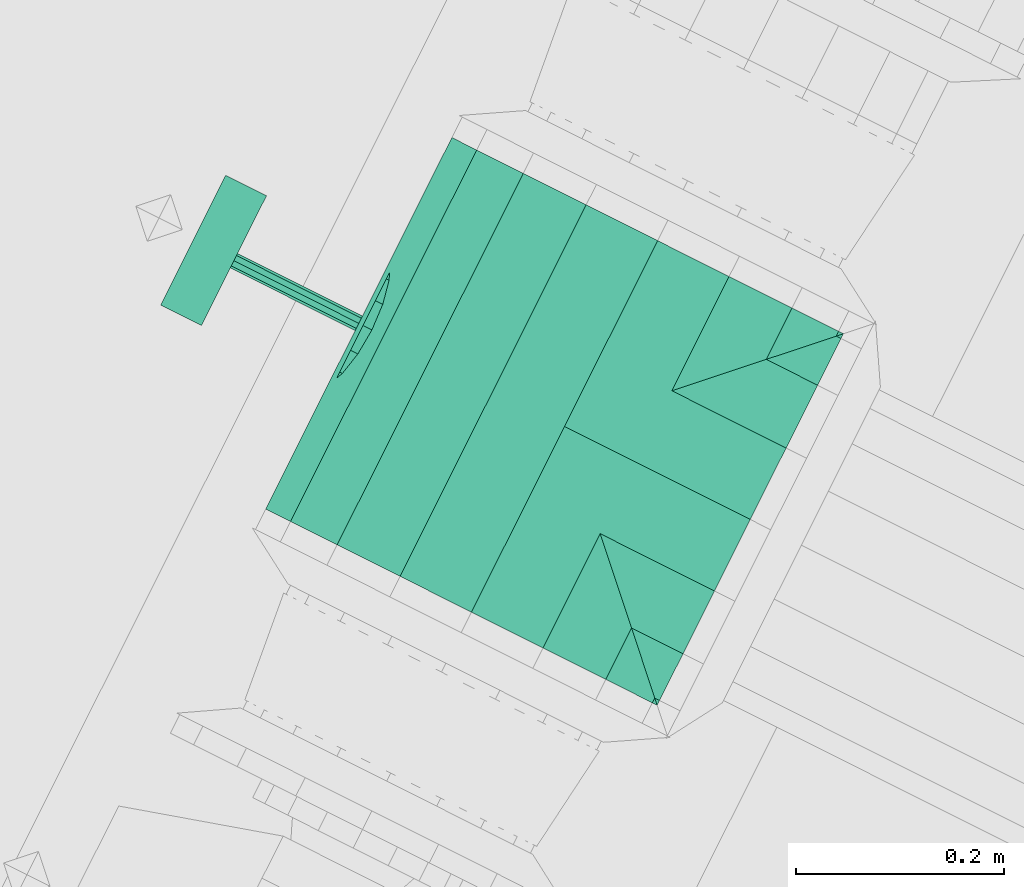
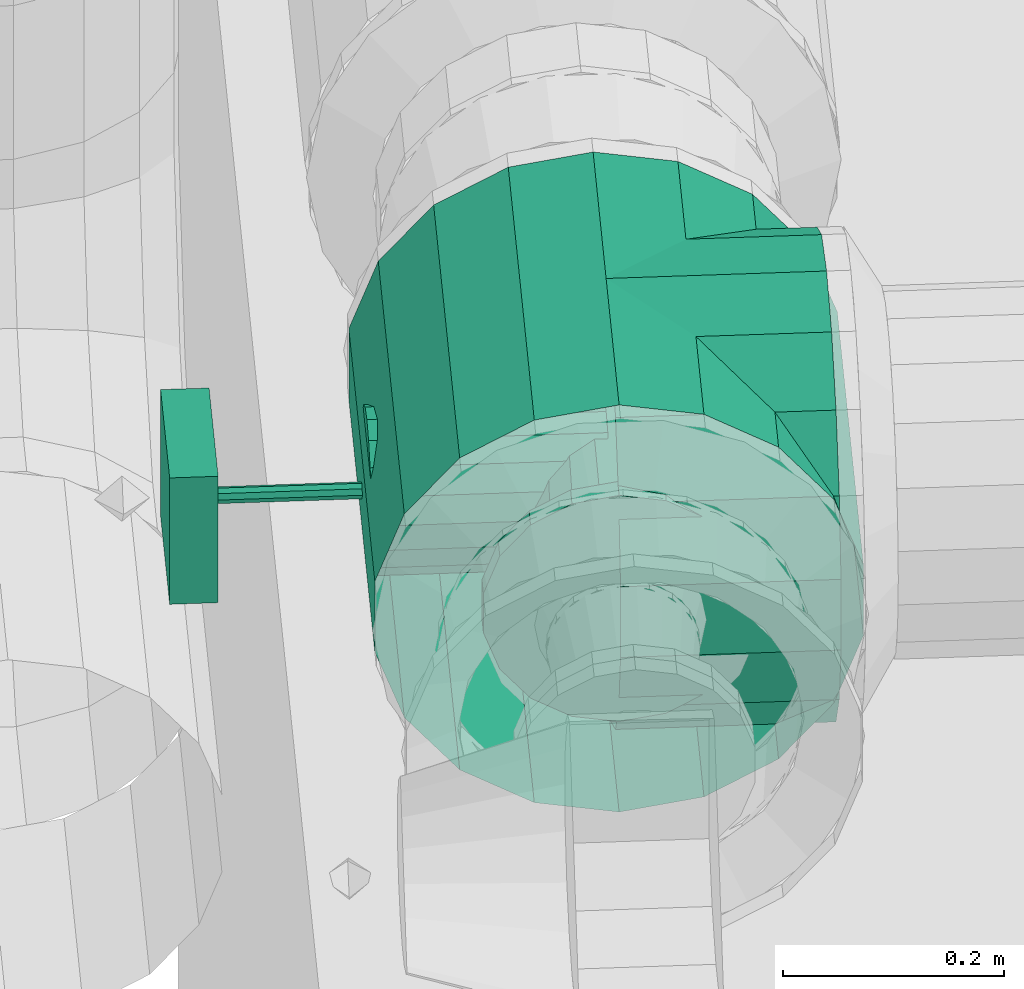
# One storey, part 109 of 206: 1 flow controller.
"""IFC2X3 building model written with IfcOpenShell, lengths in metres."""

from ifc_helpers import new_model, si_unit, derived_unit, direction, frame, origin, place, context, subcontext, project, spatial, face_set, surface_model, source, transform, mapped, material, type_object, type_shapes, element, save


model = new_model("IFC2X3")

# Units and contexts
model_context = context("Model", 3, precision=5.2338327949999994e-05, world=origin(), true_north=direction((0.0, 1.0)))
body_context = subcontext(model_context, "Body", "Model", "MODEL_VIEW")
ifc_project = project(units=[si_unit("LENGTHUNIT", "METRE"), si_unit("AREAUNIT", "SQUARE_METRE"), si_unit("VOLUMEUNIT", "CUBIC_METRE"), si_unit("MASSUNIT", "GRAM", prefix="KILO"), si_unit("PLANEANGLEUNIT", "RADIAN"), derived_unit("THERMALTRANSMITTANCEUNIT", [(si_unit("MASSUNIT", "GRAM", prefix="KILO"), 1), (si_unit("THERMODYNAMICTEMPERATUREUNIT", "KELVIN"), -1), (si_unit("TIMEUNIT", "SECOND"), -3)])], contexts=[model_context])

# Site, building, storey
site_placement = place(None, frame((0.0, 0.0, 0.0), z_axis=(0.0, 0.0, 1.0), x_axis=(0.8939966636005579, -0.4480736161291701, 0.0)))
site = spatial("IfcSite", under=ifc_project, at=site_placement, Name="Default", CompositionType="ELEMENT")
building_placement = place(site_placement, origin())
building = spatial("IfcBuilding", under=site, at=building_placement, CompositionType="ELEMENT")
storey_placement = place(building_placement, origin())
storey = spatial("IfcBuildingStorey", under=building, at=storey_placement, Name="Erdgeschoss", CompositionType="ELEMENT", Elevation=0.0)

# Flow controller
ifc_material = material(Name="IfcSurfaceStyle #1741")
distribution_element_type = type_object("IfcDistributionElementType", Name="Dreiwegeventil 318032:Dreiwegeventil 318032", material=ifc_material)
shared_shape = source(origin(), body_context, "Body", "SurfaceModel", [
    surface_model("IfcFaceBasedSurfaceModel", [(22.728853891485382, 6.5891110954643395, 2.42385), (22.728853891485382, 6.728811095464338, 2.42385), (22.728853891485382, 6.728811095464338, 2.2841500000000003), (22.728853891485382, 6.5891110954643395, 2.2841500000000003), (22.684853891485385, 6.728811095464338, 2.2841500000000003), (22.684853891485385, 6.5891110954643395, 2.2841500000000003), (22.684853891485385, 6.728811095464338, 2.42385), (22.684853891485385, 6.5891110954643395, 2.42385), (23.084853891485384, 6.45896109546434, 2.229), (23.042101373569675, 6.45896109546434, 2.236538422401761), (23.042101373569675, 6.480961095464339, 2.236538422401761), (23.084853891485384, 6.480961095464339, 2.229), (23.004505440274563, 6.45896109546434, 2.2582444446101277), (23.004505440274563, 6.480961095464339, 2.2582444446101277), (22.976600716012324, 6.45896109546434, 2.291500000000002), (22.976600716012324, 6.480961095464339, 2.291500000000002), (22.961752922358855, 6.45896109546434, 2.3322939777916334), (22.961752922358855, 6.480961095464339, 2.3322939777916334), (22.961752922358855, 6.45896109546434, 2.3757060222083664), (22.961752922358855, 6.480961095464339, 2.3757060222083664), (22.976600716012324, 6.45896109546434, 2.4165), (22.976600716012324, 6.480961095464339, 2.4165), (23.004505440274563, 6.45896109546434, 2.44975555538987), (23.004505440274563, 6.480961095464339, 2.44975555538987), (23.042101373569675, 6.45896109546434, 2.4714615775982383), (23.042101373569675, 6.480961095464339, 2.4714615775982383), (23.084853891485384, 6.45896109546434, 2.479), (23.084853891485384, 6.480961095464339, 2.479), (23.12760640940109, 6.45896109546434, 2.4714615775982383), (23.12760640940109, 6.480961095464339, 2.4714615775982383), (23.1652023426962, 6.45896109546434, 2.4497555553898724), (23.1652023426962, 6.480961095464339, 2.4497555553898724), (23.19310706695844, 6.45896109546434, 2.4165000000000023), (23.19310706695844, 6.480961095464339, 2.4165000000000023), (23.20795486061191, 6.45896109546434, 2.3757060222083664), (23.20795486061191, 6.480961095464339, 2.3757060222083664), (23.20795486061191, 6.45896109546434, 2.3322939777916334), (23.20795486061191, 6.480961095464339, 2.3322939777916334), (23.19310706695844, 6.45896109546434, 2.2915), (23.19310706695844, 6.480961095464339, 2.2915), (23.1652023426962, 6.45896109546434, 2.258244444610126), (23.1652023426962, 6.480961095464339, 2.258244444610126), (23.12760640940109, 6.45896109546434, 2.236538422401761), (23.12760640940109, 6.480961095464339, 2.236538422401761), (23.084853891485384, 6.458961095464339, 2.354), (23.084853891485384, 6.480961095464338, 2.354), (23.162853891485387, 6.480961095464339, 2.354), (23.158149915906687, 6.480961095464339, 2.327322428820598), (23.15049142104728, 6.65896109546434, 2.330109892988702), (23.154703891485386, 6.65896109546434, 2.3539999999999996), (23.14460535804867, 6.480961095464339, 2.3038625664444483), (23.13836209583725, 6.65896109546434, 2.3091012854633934), (23.123853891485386, 6.480961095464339, 2.2864500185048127), (23.119778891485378, 6.65896109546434, 2.2935081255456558), (23.098398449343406, 6.480961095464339, 2.2771849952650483), (23.096983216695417, 6.65896109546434, 2.285211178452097), (23.071309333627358, 6.480961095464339, 2.277184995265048), (23.072724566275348, 6.65896109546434, 2.2852111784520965), (23.04585389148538, 6.480961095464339, 2.286450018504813), (23.049928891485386, 6.65896109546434, 2.293508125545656), (23.025102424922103, 6.480961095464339, 2.30386256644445), (23.03134568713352, 6.65896109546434, 2.3091012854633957), (23.011557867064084, 6.480961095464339, 2.327322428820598), (23.019216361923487, 6.65896109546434, 2.330109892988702), (23.006853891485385, 6.480961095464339, 2.354), (23.01500389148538, 6.65896109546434, 2.3539999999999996), (23.011557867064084, 6.480961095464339, 2.380677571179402), (23.019216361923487, 6.65896109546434, 2.3778901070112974), (23.025102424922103, 6.480961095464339, 2.404137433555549), (23.031345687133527, 6.65896109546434, 2.398898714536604), (23.04585389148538, 6.480961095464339, 2.4215499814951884), (23.049928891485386, 6.65896109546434, 2.4144918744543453), (23.071309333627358, 6.480961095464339, 2.430815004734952), (23.072724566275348, 6.65896109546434, 2.4227888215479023), (23.098398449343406, 6.480961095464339, 2.4308150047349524), (23.096983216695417, 6.65896109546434, 2.4227888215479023), (23.123853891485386, 6.480961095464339, 2.421549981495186), (23.119778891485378, 6.65896109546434, 2.4144918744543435), (23.144605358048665, 6.480961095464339, 2.404137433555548), (23.13836209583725, 6.65896109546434, 2.3988987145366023), (23.15814991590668, 6.480961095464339, 2.380677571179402), (23.15049142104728, 6.65896109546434, 2.377890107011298), (23.158149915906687, 6.836961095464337, 2.327322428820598), (23.162853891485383, 6.836961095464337, 2.354), (23.14460535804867, 6.836961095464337, 2.3038625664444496), (23.123853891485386, 6.836961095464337, 2.286450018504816), (23.098398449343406, 6.836961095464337, 2.2771849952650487), (23.071309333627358, 6.836961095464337, 2.277184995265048), (23.04585389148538, 6.836961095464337, 2.2864500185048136), (23.025102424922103, 6.836961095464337, 2.3038625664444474), (23.011557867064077, 6.836961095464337, 2.3273224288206), (23.006853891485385, 6.836961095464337, 2.354), (23.011557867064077, 6.836961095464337, 2.3806775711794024), (23.0251024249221, 6.836961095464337, 2.40413743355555), (23.04585389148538, 6.836961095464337, 2.4215499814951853), (23.071309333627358, 6.836961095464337, 2.4308150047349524), (23.098398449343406, 6.836961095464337, 2.4308150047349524), (23.123853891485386, 6.836961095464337, 2.4215499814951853), (23.144605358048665, 6.836961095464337, 2.404137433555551), (23.158149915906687, 6.836961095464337, 2.380677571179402), (23.084853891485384, 6.836961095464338, 2.229), (23.042101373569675, 6.836961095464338, 2.236538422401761), (23.042101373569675, 6.8589610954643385, 2.236538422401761), (23.084853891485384, 6.8589610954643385, 2.229), (23.004505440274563, 6.836961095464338, 2.2582444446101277), (23.004505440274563, 6.8589610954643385, 2.2582444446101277), (22.976600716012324, 6.836961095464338, 2.291500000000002), (22.976600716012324, 6.8589610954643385, 2.291500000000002), (22.961752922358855, 6.836961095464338, 2.3322939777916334), (22.961752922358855, 6.8589610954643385, 2.3322939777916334), (22.961752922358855, 6.836961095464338, 2.3757060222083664), (22.961752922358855, 6.8589610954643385, 2.3757060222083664), (22.976600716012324, 6.836961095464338, 2.4165), (22.976600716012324, 6.8589610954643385, 2.4165), (23.004505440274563, 6.836961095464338, 2.44975555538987), (23.004505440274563, 6.8589610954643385, 2.44975555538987), (23.042101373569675, 6.836961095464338, 2.4714615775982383), (23.042101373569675, 6.8589610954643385, 2.4714615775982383), (23.084853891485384, 6.836961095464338, 2.479), (23.084853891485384, 6.8589610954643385, 2.479), (23.12760640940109, 6.836961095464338, 2.4714615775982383), (23.12760640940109, 6.8589610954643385, 2.4714615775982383), (23.1652023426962, 6.836961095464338, 2.4497555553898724), (23.1652023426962, 6.8589610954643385, 2.4497555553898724), (23.19310706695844, 6.836961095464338, 2.4165000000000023), (23.19310706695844, 6.8589610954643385, 2.4165000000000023), (23.20795486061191, 6.836961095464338, 2.3757060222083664), (23.20795486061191, 6.8589610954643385, 2.3757060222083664), (23.20795486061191, 6.836961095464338, 2.3322939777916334), (23.20795486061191, 6.8589610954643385, 2.3322939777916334), (23.19310706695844, 6.836961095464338, 2.2915), (23.19310706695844, 6.8589610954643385, 2.2915), (23.1652023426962, 6.836961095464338, 2.258244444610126), (23.1652023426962, 6.8589610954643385, 2.258244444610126), (23.12760640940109, 6.836961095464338, 2.236538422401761), (23.12760640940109, 6.8589610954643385, 2.236538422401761), (23.084853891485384, 6.836961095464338, 2.354), (23.084853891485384, 6.858961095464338, 2.354), (23.084853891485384, 6.658961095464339, 2.276), (23.084853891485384, 6.6322835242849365, 2.2807039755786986), (22.867853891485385, 6.6322835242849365, 2.2807039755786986), (22.867853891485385, 6.658961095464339, 2.276), (23.084853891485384, 6.608823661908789, 2.2942485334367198), (22.867853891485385, 6.608823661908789, 2.2942485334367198), (23.084853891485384, 6.591411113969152, 2.315), (22.867853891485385, 6.591411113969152, 2.315), (23.084853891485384, 6.582146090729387, 2.3404554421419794), (22.867853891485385, 6.582146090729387, 2.3404554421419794), (23.084853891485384, 6.582146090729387, 2.3675445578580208), (22.867853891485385, 6.582146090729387, 2.3675445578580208), (23.084853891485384, 6.591411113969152, 2.3930000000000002), (22.867853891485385, 6.591411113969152, 2.3930000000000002), (23.084853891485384, 6.608823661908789, 2.4137514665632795), (22.867853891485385, 6.608823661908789, 2.4137514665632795), (23.084853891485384, 6.6322835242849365, 2.427296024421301), (22.867853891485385, 6.6322835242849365, 2.427296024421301), (23.084853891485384, 6.658961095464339, 2.4319999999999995), (22.867853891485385, 6.658961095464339, 2.4319999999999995), (23.084853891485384, 6.685638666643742, 2.427296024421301), (22.867853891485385, 6.685638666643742, 2.427296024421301), (23.084853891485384, 6.709098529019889, 2.41375146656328), (22.867853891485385, 6.709098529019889, 2.41375146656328), (23.084853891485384, 6.726511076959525, 2.3930000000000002), (22.867853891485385, 6.726511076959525, 2.3930000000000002), (23.084853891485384, 6.73577610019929, 2.3675445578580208), (22.867853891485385, 6.73577610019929, 2.3675445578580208), (23.084853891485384, 6.73577610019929, 2.3404554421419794), (22.867853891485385, 6.73577610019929, 2.3404554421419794), (23.084853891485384, 6.726511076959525, 2.315), (22.867853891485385, 6.726511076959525, 2.315), (23.084853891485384, 6.709098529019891, 2.2942485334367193), (22.867853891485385, 6.709098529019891, 2.2942485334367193), (23.084853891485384, 6.685638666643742, 2.280703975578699), (22.867853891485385, 6.685638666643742, 2.280703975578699), (23.084853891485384, 6.658961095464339, 2.354), (22.867853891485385, 6.658961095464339, 2.354), (22.867853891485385, 6.658961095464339, 2.3462), (22.867853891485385, 6.653445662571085, 2.348484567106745), (22.728853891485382, 6.653445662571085, 2.348484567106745), (22.728853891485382, 6.658961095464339, 2.3462), (22.867853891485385, 6.65116109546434, 2.3539999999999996), (22.728853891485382, 6.65116109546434, 2.3539999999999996), (22.867853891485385, 6.653445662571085, 2.359515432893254), (22.728853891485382, 6.653445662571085, 2.359515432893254), (22.867853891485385, 6.658961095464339, 2.3617999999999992), (22.728853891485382, 6.658961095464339, 2.3617999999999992), (22.867853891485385, 6.664476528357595, 2.359515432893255), (22.728853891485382, 6.664476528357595, 2.359515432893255), (22.867853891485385, 6.666761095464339, 2.3540000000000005), (22.728853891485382, 6.666761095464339, 2.3540000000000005), (22.867853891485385, 6.664476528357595, 2.3484845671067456), (22.728853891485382, 6.664476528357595, 2.3484845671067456), (22.728853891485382, 6.658961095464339, 2.354), (23.084853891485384, 6.5891110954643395, 2.3539999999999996), (23.084853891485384, 6.593323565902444, 2.330109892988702), (23.26285389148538, 6.585665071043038, 2.3273224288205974), (23.26285389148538, 6.580961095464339, 2.354), (23.084853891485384, 6.605452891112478, 2.3091012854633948), (23.26285389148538, 6.599209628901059, 2.303862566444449), (23.084853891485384, 6.624036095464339, 2.293508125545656), (23.26285389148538, 6.619961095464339, 2.286450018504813), (23.084853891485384, 6.646831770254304, 2.2852111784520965), (23.26285389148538, 6.6454165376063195, 2.277184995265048), (23.084853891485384, 6.671090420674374, 2.285211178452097), (23.26285389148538, 6.672505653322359, 2.277184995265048), (23.084853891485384, 6.6938860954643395, 2.293508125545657), (23.26285389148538, 6.69796109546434, 2.2864500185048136), (23.084853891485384, 6.7124692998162, 2.3091012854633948), (23.26285389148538, 6.718712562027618, 2.3038625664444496), (23.084853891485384, 6.724598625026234, 2.3301098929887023), (23.26285389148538, 6.732257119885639, 2.327322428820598), (23.084853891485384, 6.728811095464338, 2.354), (23.26285389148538, 6.7369610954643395, 2.354), (23.084853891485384, 6.724598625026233, 2.377890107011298), (23.26285389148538, 6.732257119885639, 2.380677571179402), (23.084853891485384, 6.712469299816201, 2.398898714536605), (23.26285389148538, 6.718712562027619, 2.40413743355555), (23.084853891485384, 6.6938860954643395, 2.414491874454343), (23.26285389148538, 6.69796109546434, 2.4215499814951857), (23.084853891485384, 6.671090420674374, 2.4227888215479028), (23.26285389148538, 6.672505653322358, 2.4308150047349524), (23.084853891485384, 6.646831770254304, 2.4227888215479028), (23.26285389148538, 6.6454165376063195, 2.4308150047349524), (23.084853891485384, 6.624036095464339, 2.4144918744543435), (23.26285389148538, 6.619961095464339, 2.421549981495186), (23.084853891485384, 6.6054528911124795, 2.3988987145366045), (23.26285389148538, 6.59920962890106, 2.40413743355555), (23.084853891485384, 6.593323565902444, 2.3778901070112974), (23.26285389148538, 6.585665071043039, 2.380677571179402), (23.26285389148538, 6.658961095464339, 2.229), (23.26285389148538, 6.701713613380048, 2.236538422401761), (23.284853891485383, 6.701713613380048, 2.236538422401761), (23.284853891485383, 6.658961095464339, 2.229), (23.26285389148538, 6.739309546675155, 2.2582444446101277), (23.284853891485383, 6.739309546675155, 2.2582444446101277), (23.26285389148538, 6.7672142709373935, 2.291499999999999), (23.284853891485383, 6.7672142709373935, 2.291499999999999), (23.26285389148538, 6.782062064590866, 2.332293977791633), (23.284853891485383, 6.782062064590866, 2.332293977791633), (23.26285389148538, 6.782062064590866, 2.3757060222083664), (23.284853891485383, 6.782062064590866, 2.3757060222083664), (23.26285389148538, 6.7672142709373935, 2.4165000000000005), (23.284853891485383, 6.7672142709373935, 2.4165000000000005), (23.26285389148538, 6.739309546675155, 2.4497555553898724), (23.284853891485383, 6.739309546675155, 2.4497555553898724), (23.26285389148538, 6.701713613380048, 2.4714615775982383), (23.284853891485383, 6.701713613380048, 2.4714615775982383), (23.26285389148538, 6.658961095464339, 2.479), (23.284853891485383, 6.658961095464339, 2.479), (23.26285389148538, 6.616208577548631, 2.4714615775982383), (23.284853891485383, 6.616208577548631, 2.4714615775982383), (23.26285389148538, 6.578612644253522, 2.4497555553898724), (23.284853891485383, 6.578612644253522, 2.4497555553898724), (23.26285389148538, 6.550707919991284, 2.4165000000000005), (23.284853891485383, 6.550707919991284, 2.4165000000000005), (23.26285389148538, 6.535860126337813, 2.3757060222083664), (23.284853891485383, 6.535860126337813, 2.3757060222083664), (23.26285389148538, 6.535860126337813, 2.3322939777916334), (23.284853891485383, 6.535860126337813, 2.3322939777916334), (23.26285389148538, 6.550707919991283, 2.2914999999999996), (23.284853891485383, 6.550707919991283, 2.2914999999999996), (23.26285389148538, 6.578612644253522, 2.2582444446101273), (23.284853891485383, 6.578612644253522, 2.2582444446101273), (23.26285389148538, 6.616208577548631, 2.2365384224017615), (23.284853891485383, 6.616208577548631, 2.2365384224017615), (23.26285389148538, 6.658961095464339, 2.354), (23.284853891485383, 6.658961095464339, 2.354), (23.08485389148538, 6.45896109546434, 2.129), (23.0078993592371, 6.45896109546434, 2.1425691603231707), (23.0078993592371, 6.8589610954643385, 2.1425691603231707), (23.08485389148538, 6.8589610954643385, 2.129), (22.940226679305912, 6.45896109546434, 2.181640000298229), (22.940226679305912, 6.8589610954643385, 2.181640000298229), (22.88999817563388, 6.45896109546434, 2.2415), (22.88999817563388, 6.8589610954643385, 2.2415), (22.863272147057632, 6.45896109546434, 2.31492916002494), (22.863272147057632, 6.8589610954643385, 2.31492916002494), (22.863272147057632, 6.45896109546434, 2.393070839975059), (22.863272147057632, 6.8589610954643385, 2.393070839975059), (22.88999817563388, 6.45896109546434, 2.4664999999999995), (22.88999817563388, 6.8589610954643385, 2.4664999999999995), (22.940226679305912, 6.45896109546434, 2.52635999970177), (22.940226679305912, 6.8589610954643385, 2.52635999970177), (23.0078993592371, 6.45896109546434, 2.5654308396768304), (23.0078993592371, 6.8589610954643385, 2.5654308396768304), (23.08485389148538, 6.45896109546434, 2.579), (23.08485389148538, 6.8589610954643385, 2.579), (23.161808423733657, 6.45896109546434, 2.565430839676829), (23.161808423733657, 6.8589610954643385, 2.565430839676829), (23.229481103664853, 6.45896109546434, 2.52635999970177), (23.229481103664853, 6.8589610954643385, 2.52635999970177), (23.27970960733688, 6.45896109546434, 2.4665000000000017), (23.27970960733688, 6.8589610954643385, 2.4665000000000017), (23.30643563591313, 6.45896109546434, 2.393070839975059), (23.30643563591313, 6.8589610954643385, 2.393070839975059), (23.30643563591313, 6.45896109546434, 2.31492916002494), (23.30643563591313, 6.8589610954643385, 2.31492916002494), (23.27970960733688, 6.45896109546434, 2.2415), (23.27970960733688, 6.8589610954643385, 2.2415), (23.229481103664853, 6.45896109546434, 2.181640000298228), (23.229481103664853, 6.8589610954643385, 2.181640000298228), (23.161808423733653, 6.45896109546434, 2.1425691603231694), (23.161808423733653, 6.8589610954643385, 2.1425691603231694), (23.08485389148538, 6.658961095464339, 2.129), (23.08485389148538, 6.735915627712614, 2.1425691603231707), (23.284853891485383, 6.735915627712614, 2.1425691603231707), (23.284853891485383, 6.658961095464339, 2.129), (23.08485389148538, 6.80358830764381, 2.1816400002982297), (23.284853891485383, 6.80358830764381, 2.1816400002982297), (23.08485389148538, 6.853816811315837, 2.2415), (23.284853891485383, 6.853816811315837, 2.2415), (23.08485389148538, 6.880542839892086, 2.31492916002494), (23.284853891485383, 6.880542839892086, 2.31492916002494), (23.08485389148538, 6.880542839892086, 2.393070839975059), (23.284853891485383, 6.880542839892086, 2.393070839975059), (23.08485389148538, 6.853816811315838, 2.4664999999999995), (23.284853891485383, 6.853816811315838, 2.4664999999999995), (23.08485389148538, 6.803588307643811, 2.52635999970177), (23.284853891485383, 6.803588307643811, 2.52635999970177), (23.08485389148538, 6.735915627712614, 2.565430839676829), (23.284853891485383, 6.735915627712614, 2.565430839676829), (23.08485389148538, 6.658961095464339, 2.579), (23.284853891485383, 6.658961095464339, 2.579), (23.08485389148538, 6.582006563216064, 2.565430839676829), (23.284853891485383, 6.582006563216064, 2.565430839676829), (23.08485389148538, 6.514333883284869, 2.52635999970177), (23.284853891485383, 6.514333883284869, 2.52635999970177), (23.08485389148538, 6.464105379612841, 2.4664999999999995), (23.284853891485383, 6.464105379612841, 2.4664999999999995), (23.08485389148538, 6.437379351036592, 2.3930708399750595), (23.284853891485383, 6.437379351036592, 2.3930708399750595), (23.08485389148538, 6.437379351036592, 2.31492916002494), (23.284853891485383, 6.437379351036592, 2.31492916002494), (23.08485389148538, 6.464105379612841, 2.241499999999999), (23.284853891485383, 6.464105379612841, 2.241499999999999), (23.08485389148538, 6.514333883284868, 2.1816400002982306), (23.284853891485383, 6.514333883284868, 2.1816400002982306), (23.08485389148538, 6.582006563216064, 2.14256916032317), (23.284853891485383, 6.582006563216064, 2.14256916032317)], [face_set([[[0, 1, 2, 3]], [[3, 2, 4, 5]], [[5, 4, 6, 7]], [[7, 6, 1, 0]], [[0, 3, 5, 7]], [[6, 4, 2, 1]], [[8, 9, 10, 11]], [[9, 12, 13, 10]], [[12, 14, 15, 13]], [[14, 16, 17, 15]], [[16, 18, 19, 17]], [[18, 20, 21, 19]], [[20, 22, 23, 21]], [[22, 24, 25, 23]], [[24, 26, 27, 25]], [[26, 28, 29, 27]], [[28, 30, 31, 29]], [[30, 32, 33, 31]], [[32, 34, 35, 33]], [[34, 36, 37, 35]], [[36, 38, 39, 37]], [[38, 40, 41, 39]], [[40, 42, 43, 41]], [[42, 8, 11, 43]], [[44, 9, 8]], [[44, 12, 9]], [[44, 14, 12]], [[44, 16, 14]], [[44, 18, 16]], [[44, 20, 18]], [[44, 22, 20]], [[44, 24, 22]], [[44, 26, 24]], [[44, 28, 26]], [[44, 30, 28]], [[44, 32, 30]], [[44, 34, 32]], [[44, 36, 34]], [[44, 38, 36]], [[44, 40, 38]], [[44, 42, 40]], [[44, 8, 42]], [[45, 43, 11]], [[45, 41, 43]], [[45, 39, 41]], [[45, 37, 39]], [[45, 35, 37]], [[45, 33, 35]], [[45, 31, 33]], [[45, 29, 31]], [[45, 27, 29]], [[45, 25, 27]], [[45, 23, 25]], [[45, 21, 23]], [[45, 19, 21]], [[45, 17, 19]], [[45, 15, 17]], [[45, 13, 15]], [[45, 10, 13]], [[45, 11, 10]], [[46, 47, 48, 49]], [[47, 50, 51, 48]], [[50, 52, 53, 51]], [[52, 54, 55, 53]], [[54, 56, 57, 55]], [[56, 58, 59, 57]], [[58, 60, 61, 59]], [[60, 62, 63, 61]], [[62, 64, 65, 63]], [[64, 66, 67, 65]], [[66, 68, 69, 67]], [[68, 70, 71, 69]], [[70, 72, 73, 71]], [[72, 74, 75, 73]], [[74, 76, 77, 75]], [[76, 78, 79, 77]], [[78, 80, 81, 79]], [[80, 46, 49, 81]], [[49, 48, 82, 83]], [[48, 51, 84, 82]], [[51, 53, 85, 84]], [[53, 55, 86, 85]], [[55, 57, 87, 86]], [[57, 59, 88, 87]], [[59, 61, 89, 88]], [[61, 63, 90, 89]], [[63, 65, 91, 90]], [[65, 67, 92, 91]], [[67, 69, 93, 92]], [[69, 71, 94, 93]], [[71, 73, 95, 94]], [[73, 75, 96, 95]], [[75, 77, 97, 96]], [[77, 79, 98, 97]], [[79, 81, 99, 98]], [[81, 49, 83, 99]], [[100, 101, 102, 103]], [[101, 104, 105, 102]], [[104, 106, 107, 105]], [[106, 108, 109, 107]], [[108, 110, 111, 109]], [[110, 112, 113, 111]], [[112, 114, 115, 113]], [[114, 116, 117, 115]], [[116, 118, 119, 117]], [[118, 120, 121, 119]], [[120, 122, 123, 121]], [[122, 124, 125, 123]], [[124, 126, 127, 125]], [[126, 128, 129, 127]], [[128, 130, 131, 129]], [[130, 132, 133, 131]], [[132, 134, 135, 133]], [[134, 100, 103, 135]], [[136, 101, 100]], [[136, 104, 101]], [[136, 106, 104]], [[136, 108, 106]], [[136, 110, 108]], [[136, 112, 110]], [[136, 114, 112]], [[136, 116, 114]], [[136, 118, 116]], [[136, 120, 118]], [[136, 122, 120]], [[136, 124, 122]], [[136, 126, 124]], [[136, 128, 126]], [[136, 130, 128]], [[136, 132, 130]], [[136, 134, 132]], [[136, 100, 134]], [[137, 135, 103]], [[137, 133, 135]], [[137, 131, 133]], [[137, 129, 131]], [[137, 127, 129]], [[137, 125, 127]], [[137, 123, 125]], [[137, 121, 123]], [[137, 119, 121]], [[137, 117, 119]], [[137, 115, 117]], [[137, 113, 115]], [[137, 111, 113]], [[137, 109, 111]], [[137, 107, 109]], [[137, 105, 107]], [[137, 102, 105]], [[137, 103, 102]], [[138, 139, 140, 141]], [[139, 142, 143, 140]], [[142, 144, 145, 143]], [[144, 146, 147, 145]], [[146, 148, 149, 147]], [[148, 150, 151, 149]], [[150, 152, 153, 151]], [[152, 154, 155, 153]], [[154, 156, 157, 155]], [[156, 158, 159, 157]], [[158, 160, 161, 159]], [[160, 162, 163, 161]], [[162, 164, 165, 163]], [[164, 166, 167, 165]], [[166, 168, 169, 167]], [[168, 170, 171, 169]], [[170, 172, 173, 171]], [[172, 138, 141, 173]], [[174, 139, 138]], [[174, 142, 139]], [[174, 144, 142]], [[174, 146, 144]], [[174, 148, 146]], [[174, 150, 148]], [[174, 152, 150]], [[174, 154, 152]], [[174, 156, 154]], [[174, 158, 156]], [[174, 160, 158]], [[174, 162, 160]], [[174, 164, 162]], [[174, 166, 164]], [[174, 168, 166]], [[174, 170, 168]], [[174, 172, 170]], [[174, 138, 172]], [[175, 173, 141]], [[175, 171, 173]], [[175, 169, 171]], [[175, 167, 169]], [[175, 165, 167]], [[175, 163, 165]], [[175, 161, 163]], [[175, 159, 161]], [[175, 157, 159]], [[175, 155, 157]], [[175, 153, 155]], [[175, 151, 153]], [[175, 149, 151]], [[175, 147, 149]], [[175, 145, 147]], [[175, 143, 145]], [[175, 140, 143]], [[175, 141, 140]], [[176, 177, 178, 179]], [[177, 180, 181, 178]], [[180, 182, 183, 181]], [[182, 184, 185, 183]], [[184, 186, 187, 185]], [[186, 188, 189, 187]], [[188, 190, 191, 189]], [[190, 176, 179, 191]], [[192, 191, 179]], [[192, 189, 191]], [[192, 187, 189]], [[192, 185, 187]], [[192, 183, 185]], [[192, 181, 183]], [[192, 178, 181]], [[192, 179, 178]], [[193, 194, 195, 196]], [[194, 197, 198, 195]], [[197, 199, 200, 198]], [[199, 201, 202, 200]], [[201, 203, 204, 202]], [[203, 205, 206, 204]], [[205, 207, 208, 206]], [[207, 209, 210, 208]], [[209, 211, 212, 210]], [[211, 213, 214, 212]], [[213, 215, 216, 214]], [[215, 217, 218, 216]], [[217, 219, 220, 218]], [[219, 221, 222, 220]], [[221, 223, 224, 222]], [[223, 225, 226, 224]], [[225, 227, 228, 226]], [[227, 193, 196, 228]], [[229, 230, 231, 232]], [[230, 233, 234, 231]], [[233, 235, 236, 234]], [[235, 237, 238, 236]], [[237, 239, 240, 238]], [[239, 241, 242, 240]], [[241, 243, 244, 242]], [[243, 245, 246, 244]], [[245, 247, 248, 246]], [[247, 249, 250, 248]], [[249, 251, 252, 250]], [[251, 253, 254, 252]], [[253, 255, 256, 254]], [[255, 257, 258, 256]], [[257, 259, 260, 258]], [[259, 261, 262, 260]], [[261, 263, 264, 262]], [[263, 229, 232, 264]], [[265, 230, 229]], [[265, 233, 230]], [[265, 235, 233]], [[265, 237, 235]], [[265, 239, 237]], [[265, 241, 239]], [[265, 243, 241]], [[265, 245, 243]], [[265, 247, 245]], [[265, 249, 247]], [[265, 251, 249]], [[265, 253, 251]], [[265, 255, 253]], [[265, 257, 255]], [[265, 259, 257]], [[265, 261, 259]], [[265, 263, 261]], [[265, 229, 263]], [[266, 264, 232]], [[266, 262, 264]], [[266, 260, 262]], [[266, 258, 260]], [[266, 256, 258]], [[266, 254, 256]], [[266, 252, 254]], [[266, 250, 252]], [[266, 248, 250]], [[266, 246, 248]], [[266, 244, 246]], [[266, 242, 244]], [[266, 240, 242]], [[266, 238, 240]], [[266, 236, 238]], [[266, 234, 236]], [[266, 231, 234]], [[266, 232, 231]], [[267, 268, 269, 270]], [[268, 271, 272, 269]], [[271, 273, 274, 272]], [[273, 275, 276, 274]], [[275, 277, 278, 276]], [[277, 279, 280, 278]], [[279, 281, 282, 280]], [[281, 283, 284, 282]], [[283, 285, 286, 284]], [[285, 287, 288, 286]], [[287, 289, 290, 288]], [[289, 291, 292, 290]], [[291, 293, 294, 292]], [[293, 295, 296, 294]], [[295, 297, 298, 296]], [[297, 299, 300, 298]], [[299, 301, 302, 300]], [[301, 267, 270, 302]], [[303, 304, 305, 306]], [[304, 307, 308, 305]], [[307, 309, 310, 308]], [[309, 311, 312, 310]], [[311, 313, 314, 312]], [[313, 315, 316, 314]], [[315, 317, 318, 316]], [[317, 319, 320, 318]], [[319, 321, 322, 320]], [[321, 323, 324, 322]], [[323, 325, 326, 324]], [[325, 327, 328, 326]], [[327, 329, 330, 328]], [[329, 331, 332, 330]], [[331, 333, 334, 332]], [[333, 335, 336, 334]], [[335, 337, 338, 336]], [[337, 303, 306, 338]]])]),
])
type_shapes(distribution_element_type, [shared_shape])
flow_controller_placement = place(storey_placement, origin())
element("IfcFlowController", 1, at=flow_controller_placement, inside=storey, type_object=distribution_element_type, material=ifc_material, Name="Dreiwegeventil", ObjectType="Dreiwegeventil", context=body_context, shape_type="MappedRepresentation", body=[
    mapped(shared_shape, transform((0.0, 0.0, 0.0), scale=1.0)),
])

save(model, "model.ifc")
